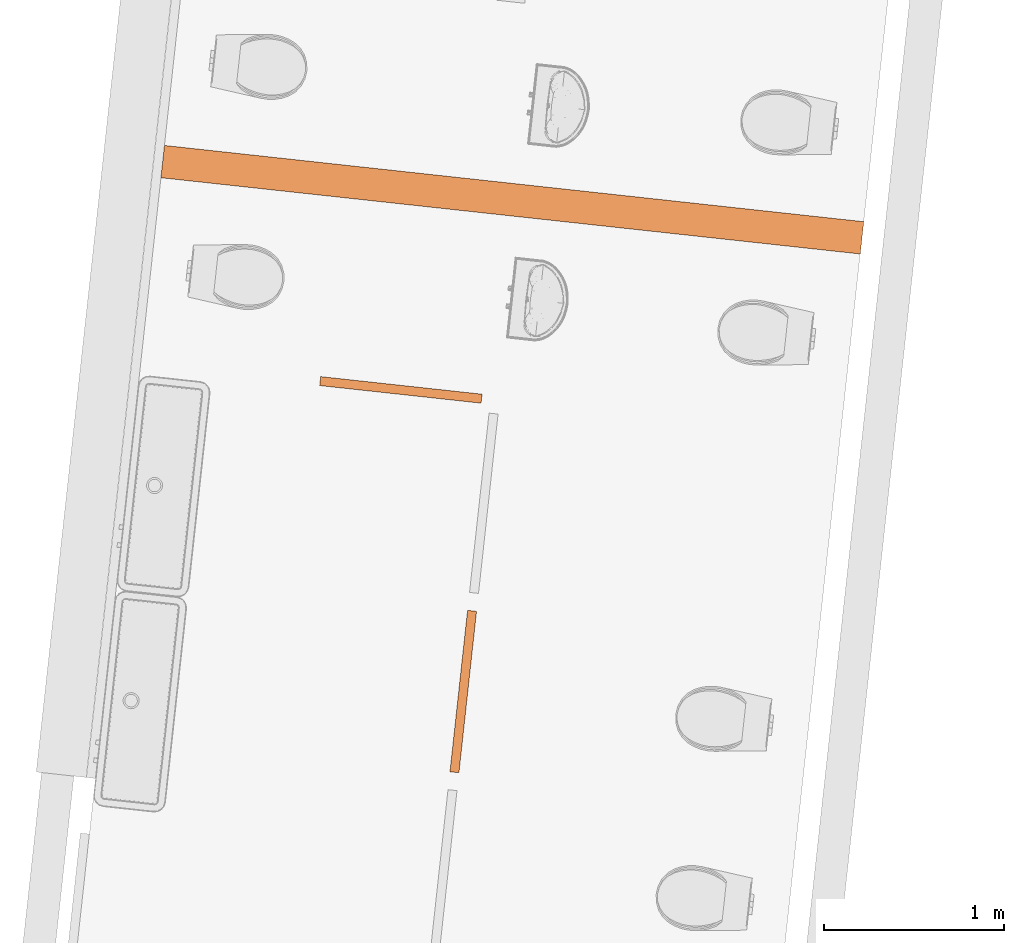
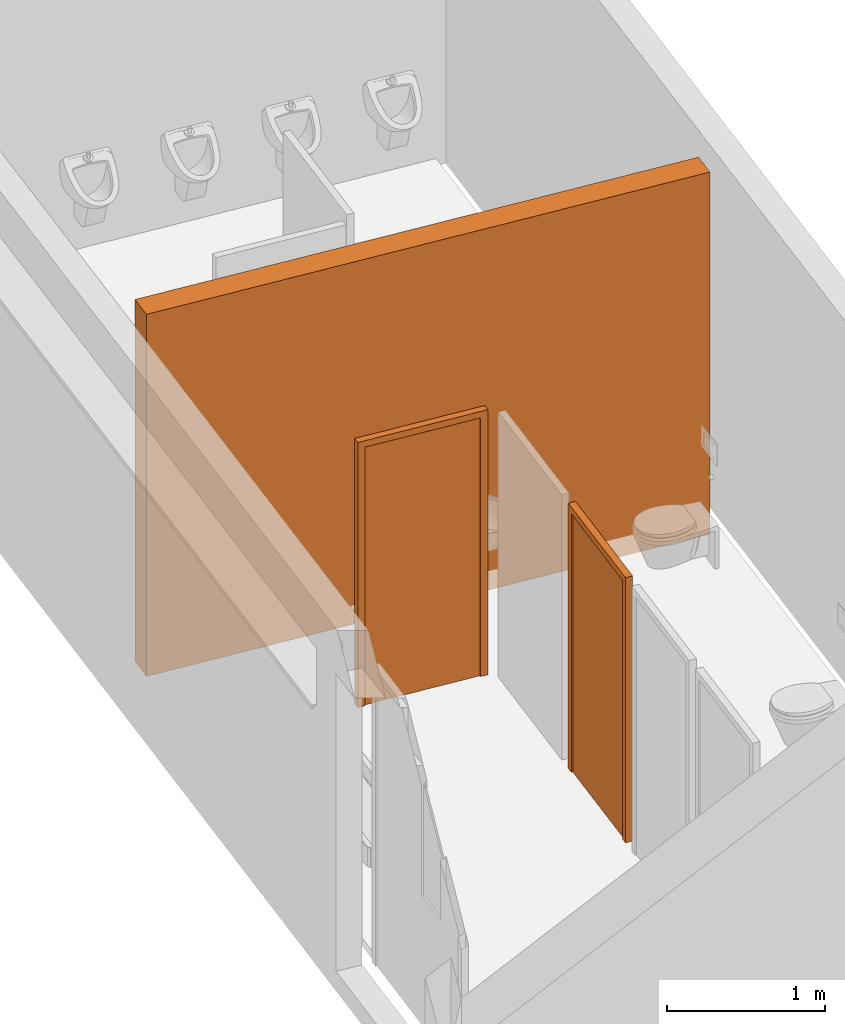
# One storey, part 36 of 79: 3 proxies.
"""IFC2X3 building model written with IfcOpenShell, lengths in metres."""

from ifc_helpers import new_model, entity, si_unit, converted_unit, derived_unit, money_unit, direction, frame, origin_with_axes, place, context, subcontext, project, spatial, polyline, outline, extrude, faceted_brep, source, transform, mapped, material, type_object, element, save


model = new_model("IFC2X3")

# Units and contexts
model_context = context("Model", 3, precision=1e-05, world=origin_with_axes(), true_north=direction((0.0, 1.0)))
body_context = subcontext(model_context, "Body", "Model", "MODEL_VIEW")
ifc_project = project(units=[si_unit("LENGTHUNIT", "METRE"), si_unit("AREAUNIT", "SQUARE_METRE"), si_unit("VOLUMEUNIT", "CUBIC_METRE"), converted_unit("PLANEANGLEUNIT", "DEGREE", entity("IfcPlaneAngleMeasure", 0.0174532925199), si_unit("PLANEANGLEUNIT", "RADIAN"), dimensions=[0, 0, 0, 0, 0, 0, 0]), money_unit("CHF"), converted_unit("TIMEUNIT", "Year", entity("IfcTimeMeasure", 31556926.0), si_unit("TIMEUNIT", "SECOND"), dimensions=[0, 0, 1, 0, 0, 0, 0]), si_unit("MASSUNIT", "GRAM", prefix="KILO"), si_unit("THERMODYNAMICTEMPERATUREUNIT", "DEGREE_CELSIUS"), si_unit("LUMINOUSINTENSITYUNIT", "LUMEN"), si_unit("ENERGYUNIT", "JOULE", prefix="MEGA"), derived_unit("THERMALCONDUCTANCEUNIT", [(si_unit("POWERUNIT", "WATT"), 1), (si_unit("LENGTHUNIT", "METRE"), -1), (si_unit("THERMODYNAMICTEMPERATUREUNIT", "KELVIN"), -1)]), derived_unit("SPECIFICHEATCAPACITYUNIT", [(si_unit("ENERGYUNIT", "JOULE"), 1), (si_unit("MASSUNIT", "GRAM", prefix="KILO"), -1), (si_unit("THERMODYNAMICTEMPERATUREUNIT", "KELVIN"), -1)]), derived_unit("MASSDENSITYUNIT", [(si_unit("MASSUNIT", "GRAM", prefix="KILO"), 1), (si_unit("VOLUMEUNIT", "CUBIC_METRE"), -1)])], contexts=[model_context])

# Site, building, storey
site_placement = place(None, frame((0.0, 0.0, 0.0), z_axis=(0.0, 0.0, 1.0), x_axis=(-0.177771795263, -0.984071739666, 0.0)))
site = spatial("IfcSite", under=ifc_project, at=site_placement, Name="Site", CompositionType="ELEMENT")
building_placement = place(site_placement, origin_with_axes())
building = spatial("IfcBuilding", under=site, at=building_placement, Name="Bâtiment", CompositionType="ELEMENT")
storey_placement = place(building_placement, origin_with_axes())
storey = spatial("IfcBuildingStorey", under=building, at=storey_placement, Name="RDC", CompositionType="ELEMENT", Elevation=0.0)

# Proxies
ifc_material_1 = material(Name="_BA banché")
building_element_proxy_type_1 = type_object("IfcBuildingElementProxyType", Name="_BA banché 180", PredefinedType="NOTDEFINED")
proxy_placement = place(storey_placement, frame((136.411685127, -120.03420689, -0.1), z_axis=(0.0, 0.0, 1.0), x_axis=(0.0700487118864, -0.997543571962, 0.0)))
element("IfcBuildingElementProxy", 1, at=proxy_placement, inside=storey, type_object=building_element_proxy_type_1, material=ifc_material_1, Name="M Refend_BlocSanit", context=body_context, shape_type="SweptSolid", body=[
    extrude(outline(polyline([(0.299999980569, -0.18), (4.19999968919, -0.18), (4.19999968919, 0.0), (0.299999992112, 0.0), (0.299999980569, -0.18)])), origin_with_axes(), (0.0, 0.0, 1.0), 2.8),
])
ifc_material_2 = material(Name="Matériau de construction IFC")
building_element_proxy_type_2 = type_object("IfcBuildingElementProxyType", Name="Porte 21", PredefinedType="NOTDEFINED")
shared_shape = source(origin_with_axes(), body_context, "Body", "Brep", [
    faceted_brep([(0.0, 0.1, 0.0), (0.05, 0.1, 0.0), (0.05, 0.05, 0.0), (0.0, 0.05, 0.0), (0.0, 0.1, 2.0), (0.05, 0.1, 2.0), (0.05, 0.05, 2.0), (0.0, 0.05, 2.0)], [[[0, 1, 2, 3]], [[0, 4, 5, 1]], [[1, 5, 6, 2]], [[3, 2, 6, 7]], [[4, 0, 3, 7]], [[5, 4, 7, 6]]]),
    faceted_brep([(0.9, 0.1, 0.0), (0.9, 0.1, 2.0), (0.9, 0.05, 2.0), (0.9, 0.05, 0.0), (0.85, 0.1, 0.0), (0.85, 0.1, 2.0), (0.85, 0.05, 2.0), (0.85, 0.05, 0.0)], [[[0, 1, 2, 3]], [[0, 4, 5, 1]], [[1, 5, 6, 2]], [[3, 2, 6, 7]], [[4, 0, 3, 7]], [[5, 4, 7, 6]]]),
    faceted_brep([(0.0, 0.1, 2.05), (0.0, 0.1, 2.0), (0.0, 0.05, 2.0), (0.0, 0.05, 2.05), (0.9, 0.1, 2.05), (0.9, 0.1, 2.0), (0.85, 0.1, 2.0), (0.05, 0.1, 2.0), (0.05, 0.05, 2.0), (0.85, 0.05, 2.0), (0.9, 0.05, 2.0), (0.9, 0.05, 2.05)], [[[0, 1, 2, 3]], [[0, 4, 5, 6, 7, 1]], [[1, 7, 8, 2]], [[3, 2, 8, 9, 10, 11]], [[4, 0, 3, 11]], [[5, 4, 11, 10]], [[6, 5, 10, 9]], [[7, 6, 9, 8]]]),
    faceted_brep([(0.85, 0.1, 0.0), (0.85, 0.06, 0.0), (0.05, 0.06, 0.0), (0.05, 0.1, 0.0), (0.85, 0.1, 2.0), (0.85, 0.06, 2.0), (0.05, 0.06, 2.0), (0.05, 0.1, 2.0)], [[[0, 1, 2, 3]], [[4, 5, 1, 0]], [[1, 5, 6, 2]], [[3, 2, 6, 7]], [[0, 3, 7, 4]], [[7, 6, 5, 4]]]),
])
for number, where, z_axis, x_axis in (
    (2, (137.733138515, -123.149292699, 0.05), (0.0, 0.0, 1.0), (-0.070048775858, 0.99754356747, 0.0)),
    (3, (138.767392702, -122.174449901, 0.05), (0.0, 0.0, 1.0), (0.997543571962, 0.0700487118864, 0.0)),
):
    element("IfcBuildingElementProxy", number, at=place(storey_placement, frame(where, z_axis=z_axis, x_axis=x_axis)), inside=storey, type_object=building_element_proxy_type_2, material=ifc_material_2, Name="P_Int BlocSanit", context=body_context, shape_type="MappedRepresentation", body=[
        mapped(shared_shape, transform((0.0, 0.0, 0.0))),
    ])

save(model, "model.ifc")
